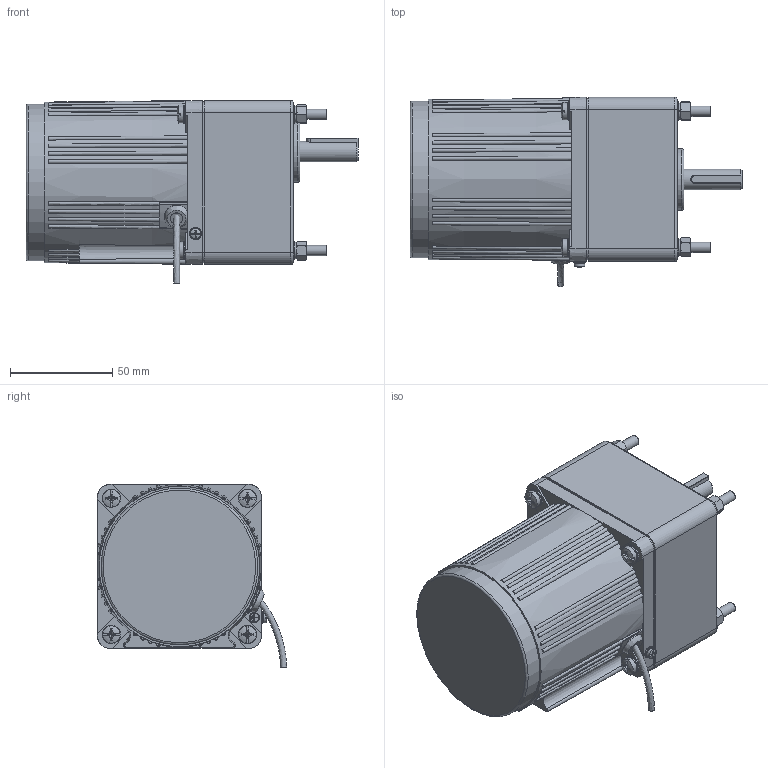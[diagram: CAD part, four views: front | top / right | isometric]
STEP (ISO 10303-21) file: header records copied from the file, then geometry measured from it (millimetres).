
FILE_DESCRIPTION(/* description */ (''),/* implementation_level */ '2;1');
FILE_NAME(/* name */ '4RK25-30CC-4GN25-750K-C·10T.stp',/* time_stamp */ '2024-11-02T14:46:56+08:00',/* author */ (''),/* organization */ (''),/* preprocessor_version */ 'ST-DEVELOPER v18.102',/* originating_system */ 'SIEMENS PLM Software NX 2027',/* authorisation */ '');
FILE_SCHEMA (('AP203_CONFIGURATION_CONTROLLED_3D_DESIGN_OF_MECHANICAL_PARTS_AND_ASSEMBLIES_MIM_LF { 1 0 10303 403 2 1 2}'));
Length unit declared in the file: millimetre
Products named in the file (1): A0_objects
Bounding box: 162 x 92.25 x 89.33 mm (x, y, z)
Volume: 714445.5 mm3; surface area: 87326.6 mm2
Topology: 20 solids, 20 shells, 878 faces, 2219 edges, 1429 vertices
Faces by surface type: plane 305, bspline 287, cylinder 114, cone 110, revolution 30, torus 18, sphere 14
Full cylindrical faces by diameter (mm): 2.6 x1, 2.7 x1, 3.2 x1, 4 x1, 4.351 x4, 4.4 x1, 4.6 x4, 5 x5, 5.1 x1, 5.3 x8, 6 x10, 6.5 x4, 8.2 x1, 8.5 x4, 9 x8, 10 x1, 10.5 x1, 19 x1, 26 x1, 30 x1, 56 x1, 67 x1, 73 x1, 75 x2, 76.5 x1, 77.5 x1
Entity records: 35189 total; most frequent: CARTESIAN_POINT 16378, ORIENTED_EDGE 4072, DIRECTION 2690, EDGE_CURVE 2036, VERTEX_POINT 1368, AXIS2_PLACEMENT_3D 1117, EDGE_LOOP 1087, B_SPLINE_CURVE_WITH_KNOTS 1073
